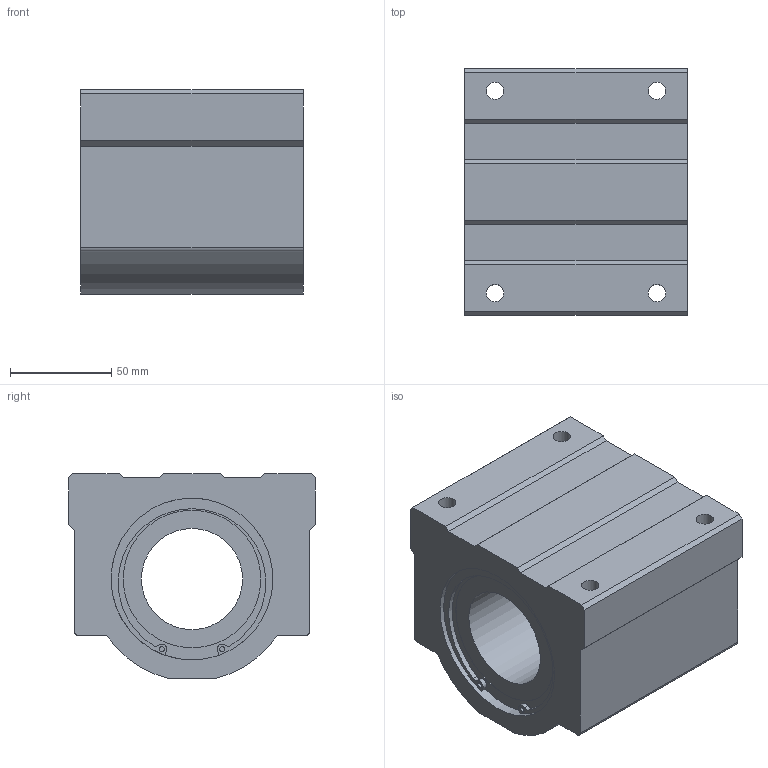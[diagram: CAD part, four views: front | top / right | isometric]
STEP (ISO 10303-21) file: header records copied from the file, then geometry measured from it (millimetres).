
FILE_DESCRIPTION((''),'2;1');
FILE_NAME('D:\製品 (図面)\カタログ用3D\リニアベアリング関連(改)\STEP形式\LH-B\LH50B.stp','2010-01-25T10:22:25',('Tsuchiya'),(''),'Autodesk Inventor 10','Autodesk Inventor 10','');
FILE_SCHEMA(('AUTOMOTIVE_DESIGN { 1 0 10303 214 1 1 1 1 }'));
Length unit declared in the file: millimetre
Products named in the file (1): LH50B
Bounding box: 110 x 122 x 101 mm (x, y, z)
Volume: 908775 mm3; surface area: 93721.3 mm2
Topology: 1 solids, 3 shells, 71 faces, 175 edges, 118 vertices
Faces by surface type: plane 37, cylinder 20, bspline 14
Full cylindrical faces by diameter (mm): 2.5 x2, 50 x1, 68 x2, 76.5 x2, 80 x4
Entity records: 2176 total; most frequent: CARTESIAN_POINT 532, DIRECTION 332, ORIENTED_EDGE 304, EDGE_CURVE 152, AXIS2_PLACEMENT_3D 122, VERTEX_POINT 112, EDGE_LOOP 110, VECTOR 88
